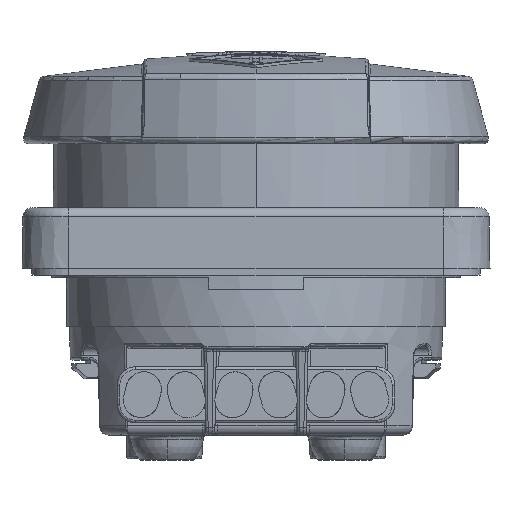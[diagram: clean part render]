
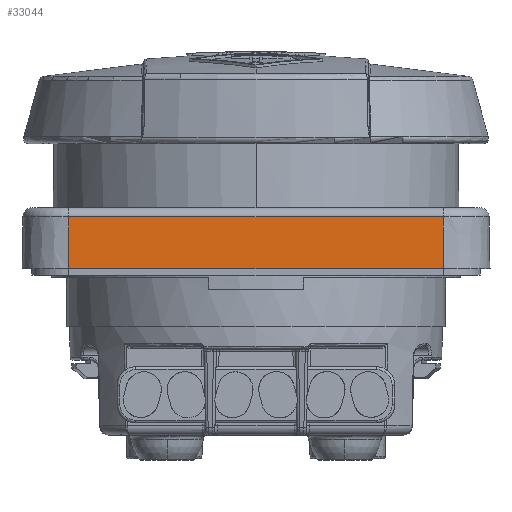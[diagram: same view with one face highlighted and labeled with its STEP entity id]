
A CAD part, front view. The second image highlights one B-rep face of the part: STEP entity #33044.
In plain terms, the highlighted planar face has unit normal (0, -1, 0.018).
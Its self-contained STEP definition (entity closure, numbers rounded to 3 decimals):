
#1902=DIRECTION('',(0.,-0.017,-1.));
#1903=VECTOR('',#1902,5.518);
#1904=CARTESIAN_POINT('',(20.,-24.904,5.517));
#1905=LINE('4979',#1904,#1903);
#1909=DIRECTION('',(-1.,0.,0.));
#1910=VECTOR('',#1909,40.);
#1911=CARTESIAN_POINT('',(20.,-25.,0.));
#1912=LINE('4916',#1911,#1910);
#1923=DIRECTION('',(1.,0.,0.));
#1924=VECTOR('',#1923,40.);
#1925=CARTESIAN_POINT('',(-20.,-24.904,
5.517));
#1926=LINE('4965',#1925,#1924);
#1962=DIRECTION('',(0.,-0.017,-1.));
#1963=VECTOR('',#1962,5.518);
#1964=CARTESIAN_POINT('',(-20.,-24.904,
5.517));
#1965=LINE('4980',#1964,#1963);
#27612=CARTESIAN_POINT('',(20.,-25.,0.));
#27613=VERTEX_POINT('',#27612);
#27614=CARTESIAN_POINT('',(-20.,-25.,0.));
#27615=VERTEX_POINT('',#27614);
#27680=CARTESIAN_POINT('',(20.,-24.904,5.517));
#27681=VERTEX_POINT('',#27680);
#27684=CARTESIAN_POINT('',(-20.,-24.904,
5.517));
#27685=VERTEX_POINT('',#27684);
#33031=CARTESIAN_POINT('',(22.2,-25.,0.));
#33032=DIRECTION('',(0.,-1.,0.017));
#33033=DIRECTION('',(1.,0.,0.));
#33034=AXIS2_PLACEMENT_3D('',#33031,#33032,#33033);
#33035=PLANE('3652',#33034);
#33037=ORIENTED_EDGE('4965',*,*,#33036,.T.);
#33038=ORIENTED_EDGE('4979',*,*,#33019,.T.);
#33039=ORIENTED_EDGE('4916',*,*,#32427,.T.);
#33041=ORIENTED_EDGE('4980',*,*,#33040,.F.);
#33042=EDGE_LOOP('3652',(#33037,#33038,#33039,#33041));
#33043=FACE_OUTER_BOUND('3652',#33042,.F.);
#32427=EDGE_CURVE('4916',#27613,#27615,#1912,.T.);
#33019=EDGE_CURVE('4979',#27681,#27613,#1905,.T.);
#33036=EDGE_CURVE('4965',#27685,#27681,#1926,.T.);
#33040=EDGE_CURVE('4980',#27685,#27615,#1965,.T.);
#33044=ADVANCED_FACE('3652',(#33043),#33035,.T.);
